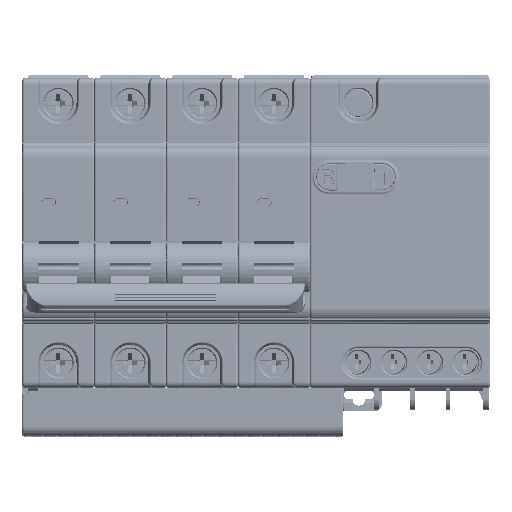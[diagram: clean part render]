
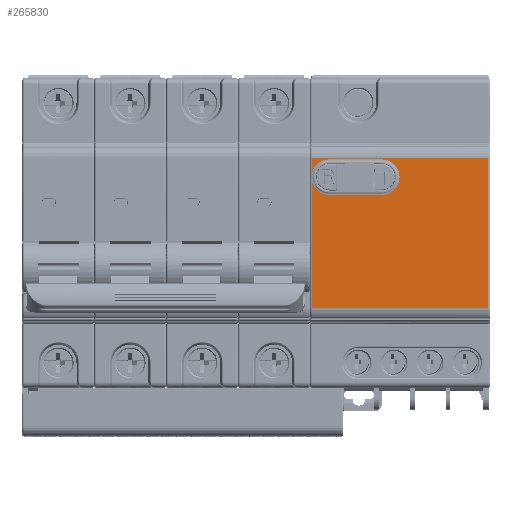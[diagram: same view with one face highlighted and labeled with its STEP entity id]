
A CAD part, top view. The second image highlights one B-rep face of the part: STEP entity #265830.
In plain terms, the highlighted planar face has unit normal (0, 0, 1) as drawn and (0, 1, 0) by its records, which use the part's own axes.
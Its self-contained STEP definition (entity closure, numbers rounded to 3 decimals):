
#23977 = LINE ( 'NONE', #30487, #321200 ) ;
#27252 = DIRECTION ( 'NONE',  ( -1., 0., 0. ) ) ;
#30487 = CARTESIAN_POINT ( 'NONE',  ( 12.852, 14., 71.7 ) ) ;
#30991 = CARTESIAN_POINT ( 'NONE',  ( 9.399, 14., 80.333 ) ) ;
#55782 = ORIENTED_EDGE ( 'NONE', *, *, #587355, .F. ) ;
#59483 = VERTEX_POINT ( 'NONE', #239099 ) ;
#62156 = EDGE_CURVE ( 'NONE', #553444, #570433, #23977, .T. ) ;
#73609 = DIRECTION ( 'NONE',  ( 0., 1., 0. ) ) ;
#76556 = ORIENTED_EDGE ( 'NONE', *, *, #62156, .T. ) ;
#80314 = DIRECTION ( 'NONE',  ( 1., 0., 0. ) ) ;
#81290 = EDGE_LOOP ( 'NONE', ( #378224, #55782, #479049, #177085, #160006, #308030, #76556, #484007, #304053, #142804 ) ) ;
#90325 = VERTEX_POINT ( 'NONE', #290766 ) ;
#101747 = VERTEX_POINT ( 'NONE', #137523 ) ;
#120394 = LINE ( 'NONE', #323272, #574009 ) ;
#123096 = AXIS2_PLACEMENT_3D ( 'NONE', #529325, #73609, #519541 ) ;
#127660 = CARTESIAN_POINT ( 'NONE',  ( -18.5, 14., 71.7 ) ) ;
#137523 = CARTESIAN_POINT ( 'NONE',  ( 14.748, 14., 71.7 ) ) ;
#142804 = ORIENTED_EDGE ( 'NONE', *, *, #453118, .T. ) ;
#156213 = DIRECTION ( 'NONE',  ( 0., 1., 0. ) ) ;
#158174 = CARTESIAN_POINT ( 'NONE',  ( 18.5, 14., 71.7 ) ) ;
#160006 = ORIENTED_EDGE ( 'NONE', *, *, #383535, .T. ) ;
#172194 = EDGE_CURVE ( 'NONE', #330108, #275326, #637451, .T. ) ;
#173132 = B_SPLINE_CURVE_WITH_KNOTS ( 'NONE', 3,
 ( #199645, #605327, #309282, #462301 ),
 .UNSPECIFIED., .F., .F.,
 ( 4, 4 ),
 ( 0., 1. ),
 .UNSPECIFIED. ) ;
#177085 = ORIENTED_EDGE ( 'NONE', *, *, #581095, .F. ) ;
#185776 = DIRECTION ( 'NONE',  ( 0., 1., 0. ) ) ;
#199645 = CARTESIAN_POINT ( 'NONE',  ( 18.203, 14., 76. ) ) ;
#209439 = DIRECTION ( 'NONE',  ( -1., 0., 0. ) ) ;
#214939 = CIRCLE ( 'NONE', #384880, 4.403 ) ;
#239099 = CARTESIAN_POINT ( 'NONE',  ( 18.5, 14., 71.7 ) ) ;
#239117 = VECTOR ( 'NONE', #607218, 1000. ) ;
#265830 = ADVANCED_FACE ( 'NONE', ( #392835 ), #336401, .T. ) ;
#275326 = VERTEX_POINT ( 'NONE', #309319 ) ;
#276990 = VERTEX_POINT ( 'NONE', #277627 ) ;
#277627 = CARTESIAN_POINT ( 'NONE',  ( 18.208, 14., 88.995 ) ) ;
#281716 = DIRECTION ( 'NONE',  ( 1., 0., 0. ) ) ;
#290766 = CARTESIAN_POINT ( 'NONE',  ( 18.203, 14., 76. ) ) ;
#304053 = ORIENTED_EDGE ( 'NONE', *, *, #172194, .T. ) ;
#307062 = EDGE_CURVE ( 'NONE', #90325, #276990, #173132, .T. ) ;
#308030 = ORIENTED_EDGE ( 'NONE', *, *, #389923, .F. ) ;
#308680 = VECTOR ( 'NONE', #362235, 1000. ) ;
#309282 = CARTESIAN_POINT ( 'NONE',  ( 18.208, 14., 84.663 ) ) ;
#309319 = CARTESIAN_POINT ( 'NONE',  ( 18.5, 14., 115.3 ) ) ;
#312391 = CARTESIAN_POINT ( 'NONE',  ( 18.5, 14., 115.3 ) ) ;
#318406 = EDGE_CURVE ( 'NONE', #570433, #330108, #120394, .T. ) ;
#321200 = VECTOR ( 'NONE', #27252, 1000. ) ;
#323272 = CARTESIAN_POINT ( 'NONE',  ( -18.5, 14., 71.7 ) ) ;
#328261 = CIRCLE ( 'NONE', #508667, 4.403 ) ;
#330108 = VERTEX_POINT ( 'NONE', #495651 ) ;
#336401 = PLANE ( 'NONE',  #577040 ) ;
#362235 = DIRECTION ( 'NONE',  ( 0., 0., -1. ) ) ;
#370582 = VECTOR ( 'NONE', #281716, 1000. ) ;
#371563 = CARTESIAN_POINT ( 'NONE',  ( 9.397, 14., 76. ) ) ;
#378224 = ORIENTED_EDGE ( 'NONE', *, *, #540629, .T. ) ;
#383535 = EDGE_CURVE ( 'NONE', #446308, #386568, #592740, .T. ) ;
#384880 = AXIS2_PLACEMENT_3D ( 'NONE', #568517, #156213, #209439 ) ;
#386568 = VERTEX_POINT ( 'NONE', #371563 ) ;
#389923 = EDGE_CURVE ( 'NONE', #553444, #386568, #328261, .T. ) ;
#392835 = FACE_OUTER_BOUND ( 'NONE', #81290, .T. ) ;
#409853 = CIRCLE ( 'NONE', #123096, 4.403 ) ;
#421977 = LINE ( 'NONE', #312391, #308680 ) ;
#445044 = DIRECTION ( 'NONE',  ( -0.215, 0., -0.977 ) ) ;
#446308 = VERTEX_POINT ( 'NONE', #641066 ) ;
#448822 = CARTESIAN_POINT ( 'NONE',  ( 12.852, 14., 71.7 ) ) ;
#453118 = EDGE_CURVE ( 'NONE', #275326, #59483, #421977, .T. ) ;
#462301 = CARTESIAN_POINT ( 'NONE',  ( 18.208, 14., 88.995 ) ) ;
#479049 = ORIENTED_EDGE ( 'NONE', *, *, #307062, .T. ) ;
#483358 = CARTESIAN_POINT ( 'NONE',  ( 9.397, 14., 76. ) ) ;
#484007 = ORIENTED_EDGE ( 'NONE', *, *, #318406, .T. ) ;
#486136 = CARTESIAN_POINT ( 'NONE',  ( 22.5, 14., 71.2 ) ) ;
#495651 = CARTESIAN_POINT ( 'NONE',  ( -18.5, 14., 115.3 ) ) ;
#508667 = AXIS2_PLACEMENT_3D ( 'NONE', #641318, #185776, #445044 ) ;
#519541 = DIRECTION ( 'NONE',  ( 1., 0., 0. ) ) ;
#529325 = CARTESIAN_POINT ( 'NONE',  ( 13.8, 14., 76. ) ) ;
#540629 = EDGE_CURVE ( 'NONE', #59483, #101747, #650513, .T. ) ;
#553444 = VERTEX_POINT ( 'NONE', #448822 ) ;
#568517 = CARTESIAN_POINT ( 'NONE',  ( 13.81, 14., 89. ) ) ;
#570433 = VERTEX_POINT ( 'NONE', #127660 ) ;
#572717 = DIRECTION ( 'NONE',  ( 0., 0., 1. ) ) ;
#574009 = VECTOR ( 'NONE', #572717, 1000. ) ;
#577040 = AXIS2_PLACEMENT_3D ( 'NONE', #486136, #589118, #80314 ) ;
#579793 = CARTESIAN_POINT ( 'NONE',  ( 9.407, 14., 89. ) ) ;
#581095 = EDGE_CURVE ( 'NONE', #446308, #276990, #214939, .T. ) ;
#583049 = CARTESIAN_POINT ( 'NONE',  ( 9.401, 14., 84.667 ) ) ;
#587355 = EDGE_CURVE ( 'NONE', #90325, #101747, #409853, .T. ) ;
#589118 = DIRECTION ( 'NONE',  ( 0., 1., 0. ) ) ;
#590845 = CARTESIAN_POINT ( 'NONE',  ( -18.5, 14., 115.3 ) ) ;
#592740 = B_SPLINE_CURVE_WITH_KNOTS ( 'NONE', 3,
 ( #579793, #583049, #30991, #483358 ),
 .UNSPECIFIED., .F., .F.,
 ( 4, 4 ),
 ( 0., 1. ),
 .UNSPECIFIED. ) ;
#605327 = CARTESIAN_POINT ( 'NONE',  ( 18.206, 14., 80.332 ) ) ;
#607218 = DIRECTION ( 'NONE',  ( -1., 0., 0. ) ) ;
#637451 = LINE ( 'NONE', #590845, #370582 ) ;
#641066 = CARTESIAN_POINT ( 'NONE',  ( 9.407, 14., 89. ) ) ;
#641318 = CARTESIAN_POINT ( 'NONE',  ( 13.8, 14., 76. ) ) ;
#650513 = LINE ( 'NONE', #158174, #239117 ) ;
